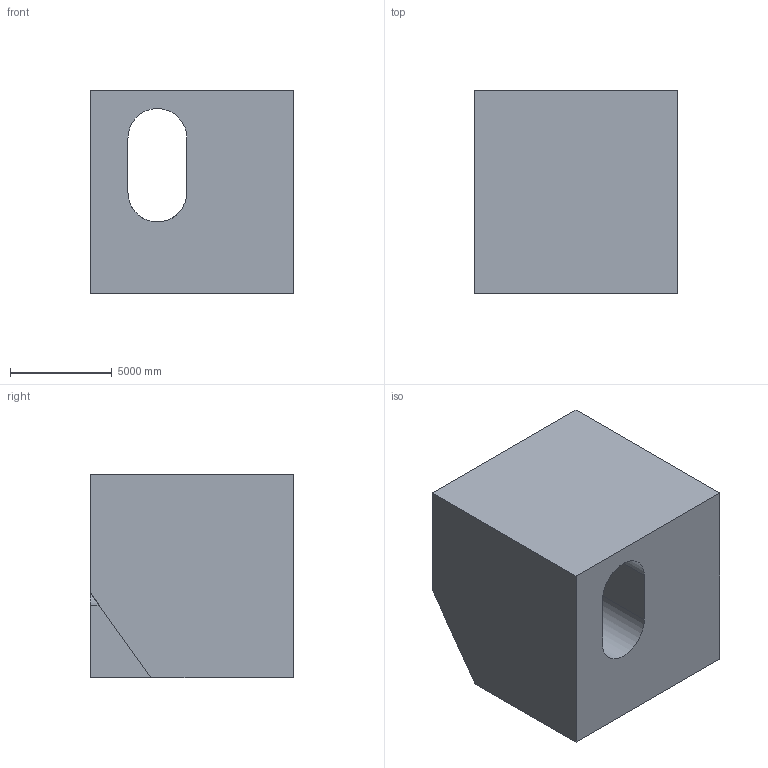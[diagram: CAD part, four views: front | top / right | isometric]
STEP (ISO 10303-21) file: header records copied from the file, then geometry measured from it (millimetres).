
FILE_DESCRIPTION (( 'STEP AP203' ), '1' );
FILE_NAME ('1192.STEP', '2022-08-18T13:07:23', ( 'user' ), ( '' ), 'SwSTEP 2.0', 'SolidWorks 2021', '' );
FILE_SCHEMA (( 'CONFIG_CONTROL_DESIGN' ));
Length unit declared in the file: centimetre
Products named in the file (1): 1192
Bounding box: 10000 x 10000 x 10000 mm (x, y, z)
Volume: 837904842804.2 mm3; surface area: 709373413.9 mm2
Topology: 1 solids, 1 shells, 13 faces, 36 edges, 24 vertices
Faces by surface type: plane 10, cylinder 3
Entity records: 498 total; most frequent: CARTESIAN_POINT 77, ORIENTED_EDGE 72, DIRECTION 70, EDGE_CURVE 36, LINE 28, VECTOR 28, VERTEX_POINT 24, AXIS2_PLACEMENT_3D 21
